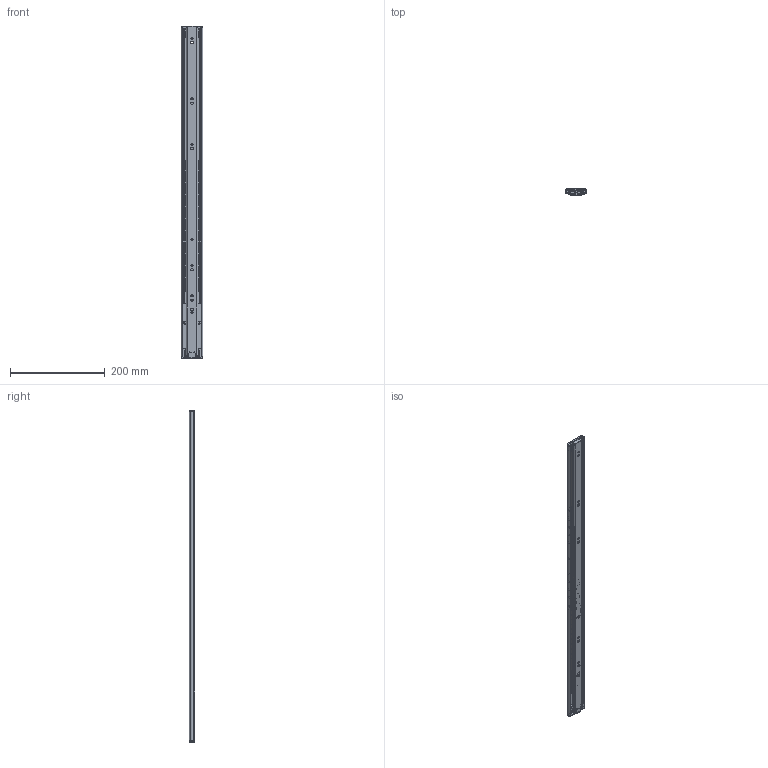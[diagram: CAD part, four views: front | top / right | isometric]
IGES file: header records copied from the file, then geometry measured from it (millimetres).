
Global section: file name: No Iges File Name specified; native system: Autodesk Inventor 2010; preprocessor: AutoDesk Inventor Iges Exporter R2010; author: jennes; date: 20110120.114022; units: millimetre
Bounding box: 45.98 x 12.5 x 701.1 mm (x, y, z)
Volume: 158826.6 mm3; surface area: 255238.7 mm2
Topology: 85 solids, 85 shells, 2188 faces, 6594 edges, 4133 vertices
Faces by surface type: plane 1145, cylinder 433, revolution 347, sphere 156, torus 59, bspline 48
